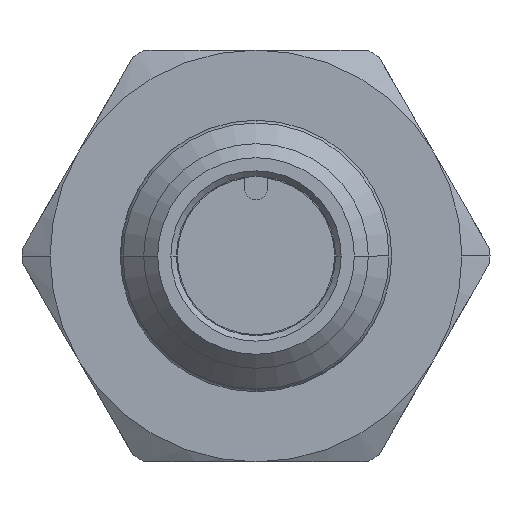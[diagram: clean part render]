
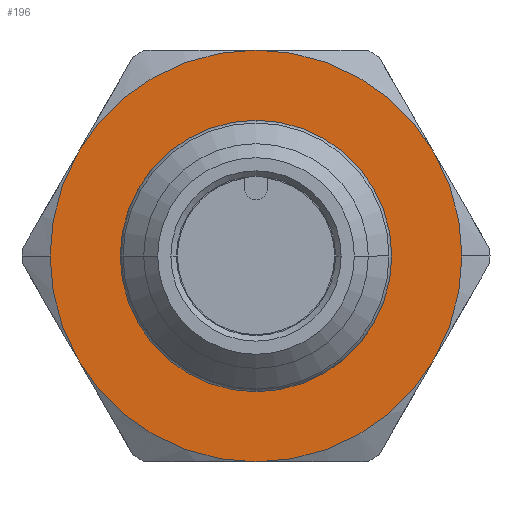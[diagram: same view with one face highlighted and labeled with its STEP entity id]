
A CAD part, left-side view. The second image highlights one B-rep face of the part: STEP entity #196.
In plain terms, the highlighted planar face has unit normal (-1, 0, 0).
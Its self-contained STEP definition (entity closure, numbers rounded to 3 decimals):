
#196 = ADVANCED_FACE( '', ( #466, #467 ), #468, .T. );
#466 = FACE_BOUND( '', #753, .T. );
#467 = FACE_OUTER_BOUND( '', #754, .T. );
#468 = PLANE( '', #755 );
#753 = EDGE_LOOP( '', ( #1738, #1739 ) );
#754 = EDGE_LOOP( '', ( #1740, #1741, #1742, #1743, #1744, #1745, #1746, #1747 ) );
#755 = AXIS2_PLACEMENT_3D( '', #1748, #1749, #1750 );
#1738 = ORIENTED_EDGE( '', *, *, #2038, .F. );
#1739 = ORIENTED_EDGE( '', *, *, #2167, .F. );
#1740 = ORIENTED_EDGE( '', *, *, #2124, .T. );
#1741 = ORIENTED_EDGE( '', *, *, #2059, .T. );
#1742 = ORIENTED_EDGE( '', *, *, #2120, .T. );
#1743 = ORIENTED_EDGE( '', *, *, #2122, .T. );
#1744 = ORIENTED_EDGE( '', *, *, #2055, .T. );
#1745 = ORIENTED_EDGE( '', *, *, #2127, .T. );
#1746 = ORIENTED_EDGE( '', *, *, #2130, .T. );
#1747 = ORIENTED_EDGE( '', *, *, #2129, .T. );
#1748 = CARTESIAN_POINT( '', ( 24.666, 8.75, 0. ) );
#1749 = DIRECTION( '', ( -1., 0., 0. ) );
#1750 = DIRECTION( '', ( 0., 1., 0. ) );
#2038 = EDGE_CURVE( '', #2511, #2513, #2514, .T. );
#2055 = EDGE_CURVE( '', #2544, #2542, #2545, .T. );
#2059 = EDGE_CURVE( '', #2547, #2549, #2551, .T. );
#2120 = EDGE_CURVE( '', #2549, #2633, #2657, .T. );
#2122 = EDGE_CURVE( '', #2633, #2544, #2659, .T. );
#2124 = EDGE_CURVE( '', #2650, #2547, #2661, .T. );
#2127 = EDGE_CURVE( '', #2542, #2616, #2664, .T. );
#2129 = EDGE_CURVE( '', #2604, #2650, #2666, .T. );
#2130 = EDGE_CURVE( '', #2616, #2604, #2667, .T. );
#2167 = EDGE_CURVE( '', #2513, #2511, #2716, .T. );
#2511 = VERTEX_POINT( '', #3135 );
#2513 = VERTEX_POINT( '', #3138 );
#2514 = CIRCLE( '', #3139, 6.5 );
#2542 = VERTEX_POINT( '', #3192 );
#2544 = VERTEX_POINT( '', #3195 );
#2545 = CIRCLE( '', #3196, 11. );
#2547 = VERTEX_POINT( '', #3207 );
#2549 = VERTEX_POINT( '', #3210 );
#2551 = CIRCLE( '', #3221, 11. );
#2604 = VERTEX_POINT( '', #3316 );
#2616 = VERTEX_POINT( '', #3366 );
#2633 = VERTEX_POINT( '', #3440 );
#2650 = VERTEX_POINT( '', #3514 );
#2657 = CIRCLE( '', #3549, 11. );
#2659 = CIRCLE( '', #3551, 11. );
#2661 = CIRCLE( '', #3553, 11. );
#2664 = CIRCLE( '', #3556, 11. );
#2666 = CIRCLE( '', #3558, 11. );
#2667 = CIRCLE( '', #3559, 11. );
#2716 = CIRCLE( '', #3626, 6.5 );
#3135 = CARTESIAN_POINT( '', ( 24.666, 6.5, 0. ) );
#3138 = CARTESIAN_POINT( '', ( 24.666, -6.5, 0. ) );
#3139 = AXIS2_PLACEMENT_3D( '', #4066, #4067, #4068 );
#3192 = CARTESIAN_POINT( '', ( 24.666, -11., 0. ) );
#3195 = CARTESIAN_POINT( '', ( 24.666, -9.526, -5.5 ) );
#3196 = AXIS2_PLACEMENT_3D( '', #4095, #4096, #4097 );
#3207 = CARTESIAN_POINT( '', ( 24.666, 11., 0. ) );
#3210 = CARTESIAN_POINT( '', ( 24.666, 9.526, -5.5 ) );
#3221 = AXIS2_PLACEMENT_3D( '', #4099, #4100, #4101 );
#3316 = CARTESIAN_POINT( '', ( 24.666, 0., 11. ) );
#3366 = CARTESIAN_POINT( '', ( 24.666, -9.526, 5.5 ) );
#3440 = CARTESIAN_POINT( '', ( 24.666, 0., -11. ) );
#3514 = CARTESIAN_POINT( '', ( 24.666, 9.526, 5.5 ) );
#3549 = AXIS2_PLACEMENT_3D( '', #4169, #4170, #4171 );
#3551 = AXIS2_PLACEMENT_3D( '', #4175, #4176, #4177 );
#3553 = AXIS2_PLACEMENT_3D( '', #4181, #4182, #4183 );
#3556 = AXIS2_PLACEMENT_3D( '', #4190, #4191, #4192 );
#3558 = AXIS2_PLACEMENT_3D( '', #4196, #4197, #4198 );
#3559 = AXIS2_PLACEMENT_3D( '', #4199, #4200, #4201 );
#3626 = AXIS2_PLACEMENT_3D( '', #4274, #4275, #4276 );
#4066 = CARTESIAN_POINT( '', ( 24.666, 0., 0. ) );
#4067 = DIRECTION( '', ( -1., 0., 0. ) );
#4068 = DIRECTION( '', ( 0., 1., 0. ) );
#4095 = CARTESIAN_POINT( '', ( 24.666, 0., 0. ) );
#4096 = DIRECTION( '', ( -1., 0., 0. ) );
#4097 = DIRECTION( '', ( 0., 1., 0. ) );
#4099 = CARTESIAN_POINT( '', ( 24.666, 0., 0. ) );
#4100 = DIRECTION( '', ( -1., 0., 0. ) );
#4101 = DIRECTION( '', ( 0., 1., 0. ) );
#4169 = CARTESIAN_POINT( '', ( 24.666, 0., 0. ) );
#4170 = DIRECTION( '', ( -1., 0., 0. ) );
#4171 = DIRECTION( '', ( 0., 1., 0. ) );
#4175 = CARTESIAN_POINT( '', ( 24.666, 0., 0. ) );
#4176 = DIRECTION( '', ( -1., 0., 0. ) );
#4177 = DIRECTION( '', ( 0., 1., 0. ) );
#4181 = CARTESIAN_POINT( '', ( 24.666, 0., 0. ) );
#4182 = DIRECTION( '', ( -1., 0., 0. ) );
#4183 = DIRECTION( '', ( 0., 1., 0. ) );
#4190 = CARTESIAN_POINT( '', ( 24.666, 0., 0. ) );
#4191 = DIRECTION( '', ( -1., 0., 0. ) );
#4192 = DIRECTION( '', ( 0., 1., 0. ) );
#4196 = CARTESIAN_POINT( '', ( 24.666, 0., 0. ) );
#4197 = DIRECTION( '', ( -1., 0., 0. ) );
#4198 = DIRECTION( '', ( 0., 1., 0. ) );
#4199 = CARTESIAN_POINT( '', ( 24.666, 0., 0. ) );
#4200 = DIRECTION( '', ( -1., 0., 0. ) );
#4201 = DIRECTION( '', ( 0., 1., 0. ) );
#4274 = CARTESIAN_POINT( '', ( 24.666, 0., 0. ) );
#4275 = DIRECTION( '', ( -1., 0., 0. ) );
#4276 = DIRECTION( '', ( 0., 1., 0. ) );
